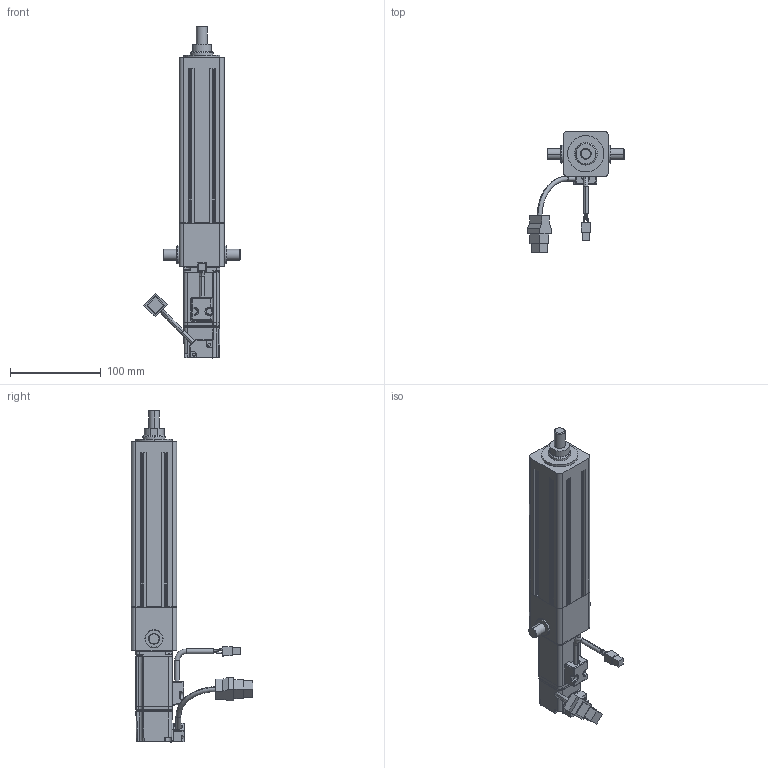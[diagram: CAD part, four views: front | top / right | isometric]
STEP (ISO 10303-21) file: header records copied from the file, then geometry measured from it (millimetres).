
FILE_DESCRIPTION (( 'STEP AP203' ), '1' );
FILE_NAME ('S1眻盄嫉粣假蚾.STEP', '2024-05-27T05:05:56', ( '' ), ( '' ), 'SwSTEP 2.0', 'SolidWorks 2018', '' );
FILE_SCHEMA (( 'CONFIG_CONTROL_DESIGN' ));
Length unit declared in the file: millimetre
Products named in the file (3): ECMA-CX0401ES-40框號系列機種-100W低慣量系列; S1眻盄嫉粣假蚾; S1眻盄嫉粣
Assembly tree (2 placements, depth 2):
  S1眻盄嫉粣假蚾
    S1眻盄嫉粣
    ECMA-CX0401ES-40框號系列機種-100W低慣量系列
Bounding box: 106.64 x 133.63 x 365.6 mm (x, y, z)
Volume: 499900.1 mm3; surface area: 142185.3 mm2
Topology: 2 solids, 17 shells, 671 faces, 1625 edges, 1010 vertices
Faces by surface type: plane 311, cylinder 242, cone 54, torus 31, sphere 17, bspline 16
Entity records: 22543 total; most frequent: CARTESIAN_POINT 6765, ORIENTED_EDGE 3246, DIRECTION 3148, EDGE_CURVE 1623, AXIS2_PLACEMENT_3D 1107, VERTEX_POINT 1010, LINE 934, VECTOR 934
